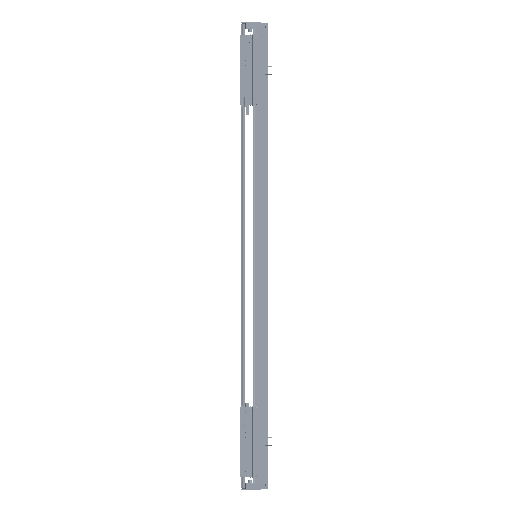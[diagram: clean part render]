
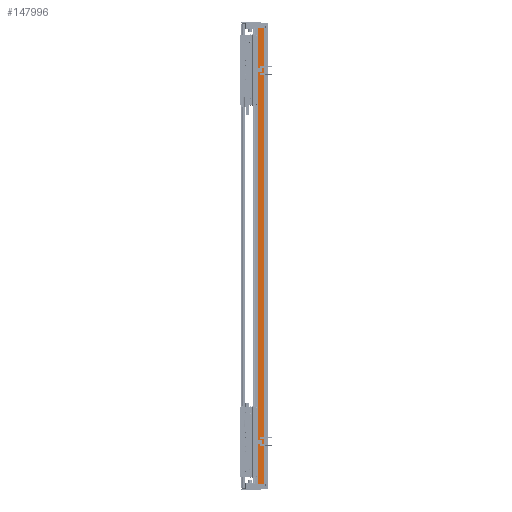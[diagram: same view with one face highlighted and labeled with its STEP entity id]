
A CAD part, left-side view. The second image highlights one B-rep face of the part: STEP entity #147996.
In plain terms, the highlighted planar face has unit normal (-1, 0, 0).
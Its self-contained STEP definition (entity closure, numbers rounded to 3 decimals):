
#11797 = DIRECTION ( 'NONE',  ( 1., 0., 0. ) ) ;
#27831 = CARTESIAN_POINT ( 'NONE',  ( -97.5, 14.45, -810. ) ) ;
#38244 = LINE ( 'NONE', #164930, #45636 ) ;
#40838 = CARTESIAN_POINT ( 'NONE',  ( -97.5, 36.95, 810. ) ) ;
#45636 = VECTOR ( 'NONE', #63414, 1000. ) ;
#49892 = CARTESIAN_POINT ( 'NONE',  ( -97.5, 36.95, -810. ) ) ;
#55581 = EDGE_LOOP ( 'NONE', ( #72984, #104534, #85164, #94123 ) ) ;
#57808 = EDGE_CURVE ( 'NONE', #154948, #132949, #38244, .T. ) ;
#62689 = LINE ( 'NONE', #149964, #66054 ) ;
#62959 = PLANE ( 'NONE',  #82108 ) ;
#63414 = DIRECTION ( 'NONE',  ( 0., 0., -1. ) ) ;
#64445 = LINE ( 'NONE', #129852, #77819 ) ;
#66054 = VECTOR ( 'NONE', #73594, 1000. ) ;
#66920 = DIRECTION ( 'NONE',  ( 0., -1., 0. ) ) ;
#69524 = EDGE_CURVE ( 'NONE', #132949, #124815, #64445, .T. ) ;
#72984 = ORIENTED_EDGE ( 'NONE', *, *, #69524, .T. ) ;
#73594 = DIRECTION ( 'NONE',  ( 0., 0., -1. ) ) ;
#76336 = CARTESIAN_POINT ( 'NONE',  ( -97.5, 36.95, 810. ) ) ;
#77819 = VECTOR ( 'NONE', #66920, 1000. ) ;
#82108 = AXIS2_PLACEMENT_3D ( 'NONE', #76336, #11797, #125885 ) ;
#85164 = ORIENTED_EDGE ( 'NONE', *, *, #147015, .F. ) ;
#94123 = ORIENTED_EDGE ( 'NONE', *, *, #57808, .T. ) ;
#104534 = ORIENTED_EDGE ( 'NONE', *, *, #127651, .F. ) ;
#110815 = CARTESIAN_POINT ( 'NONE',  ( -97.5, 14.45, 810. ) ) ;
#114181 = VECTOR ( 'NONE', #143191, 1000. ) ;
#114246 = VERTEX_POINT ( 'NONE', #110815 ) ;
#124815 = VERTEX_POINT ( 'NONE', #27831 ) ;
#125885 = DIRECTION ( 'NONE',  ( 0., 1., 0. ) ) ;
#127651 = EDGE_CURVE ( 'NONE', #114246, #124815, #62689, .T. ) ;
#128959 = LINE ( 'NONE', #40838, #114181 ) ;
#129852 = CARTESIAN_POINT ( 'NONE',  ( -97.5, 36.95, -810. ) ) ;
#132949 = VERTEX_POINT ( 'NONE', #49892 ) ;
#134286 = CARTESIAN_POINT ( 'NONE',  ( -97.5, 36.95, 810. ) ) ;
#143191 = DIRECTION ( 'NONE',  ( 0., -1., 0. ) ) ;
#147015 = EDGE_CURVE ( 'NONE', #154948, #114246, #128959, .T. ) ;
#147996 = ADVANCED_FACE ( 'NONE', ( #165291 ), #62959, .F. ) ;
#149964 = CARTESIAN_POINT ( 'NONE',  ( -97.5, 14.45, 810. ) ) ;
#154948 = VERTEX_POINT ( 'NONE', #134286 ) ;
#164930 = CARTESIAN_POINT ( 'NONE',  ( -97.5, 36.95, 810. ) ) ;
#165291 = FACE_OUTER_BOUND ( 'NONE', #55581, .T. ) ;
